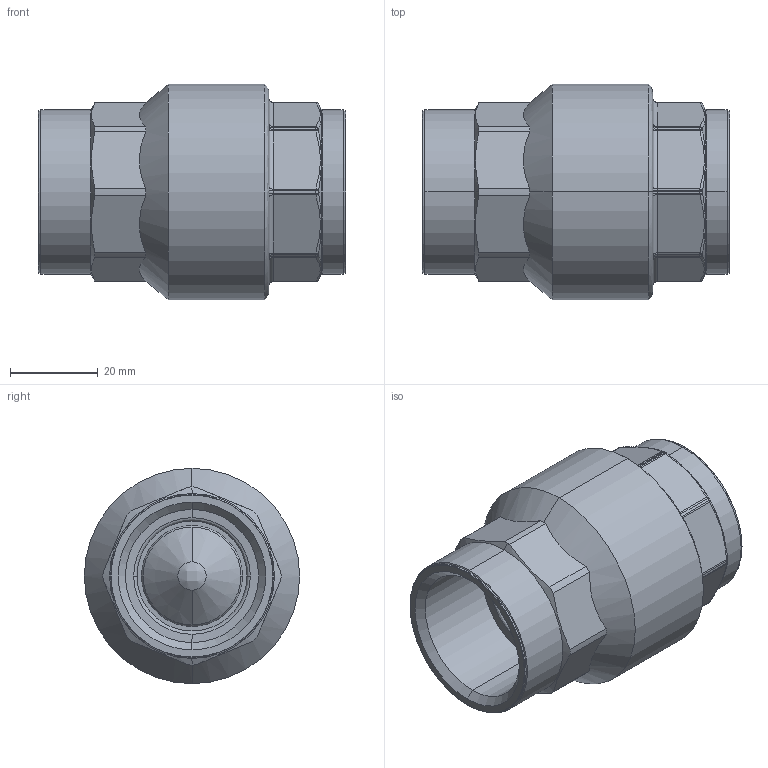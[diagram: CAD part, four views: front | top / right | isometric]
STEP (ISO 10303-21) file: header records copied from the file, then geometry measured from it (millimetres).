
FILE_DESCRIPTION (( 'STEP AP203' ), '1' );
FILE_NAME ('BC-8.STEP', '2021-08-05T14:13:02', ( 'Owner' ), ( '' ), 'SwSTEP 2.0', 'SolidWorks 2017', '' );
FILE_SCHEMA (( 'CONFIG_CONTROL_DESIGN' ));
Length unit declared in the file: inch
Products named in the file (3): BC-8
Assembly tree (1 placements, depth 2):
  BC-8
    BC-8
  BC-8
Bounding box: 70 x 49 x 49 mm (x, y, z)
Volume: 69298.1 mm3; surface area: 17446.8 mm2
Topology: 1 solids, 1 shells, 207 faces, 498 edges, 298 vertices
Faces by surface type: bspline 86, cylinder 65, cone 28, plane 28
Entity records: 10731 total; most frequent: CARTESIAN_POINT 6135, ORIENTED_EDGE 996, DIRECTION 815, EDGE_CURVE 498, AXIS2_PLACEMENT_3D 346, VERTEX_POINT 298, CIRCLE 220, EDGE_LOOP 212
